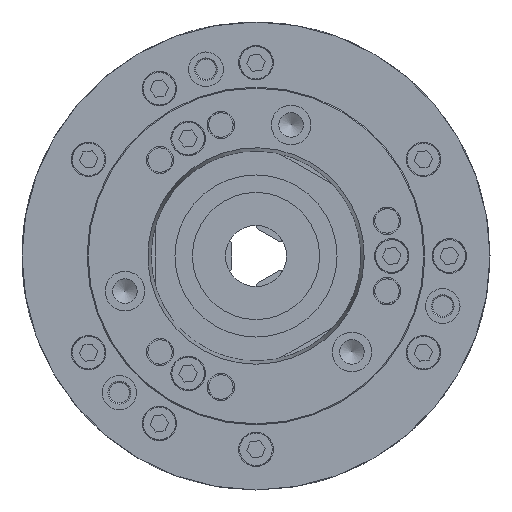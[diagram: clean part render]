
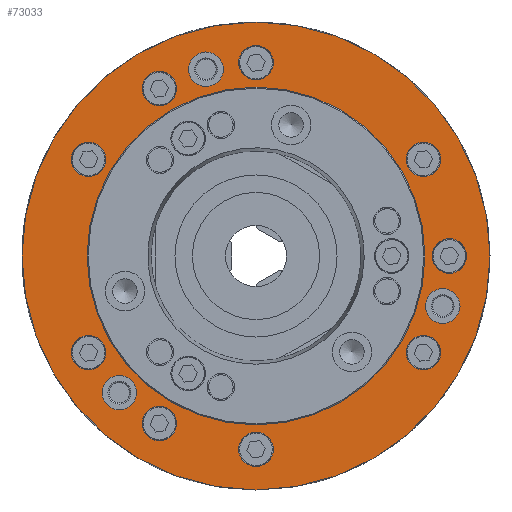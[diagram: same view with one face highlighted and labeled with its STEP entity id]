
A CAD part, left-side view. The second image highlights one B-rep face of the part: STEP entity #73033.
In plain terms, the highlighted planar face has unit normal (-1, 0, 0).
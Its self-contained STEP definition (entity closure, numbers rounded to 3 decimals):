
#86 = CARTESIAN_POINT ( 'NONE',  ( -109.5, -87.639, 4.25 ) ) ;
#146 = CIRCLE ( 'NONE', #57796, 8.5 ) ;
#2803 = CARTESIAN_POINT ( 'NONE',  ( -109.5, -82.272, -47.5 ) ) ;
#2932 = AXIS2_PLACEMENT_3D ( 'NONE', #21632, #38570, #27445 ) ;
#2992 = ORIENTED_EDGE ( 'NONE', *, *, #53183, .F. ) ;
#3221 = CIRCLE ( 'NONE', #47074, 8.5 ) ;
#3381 = EDGE_LOOP ( 'NONE', ( #65305 ) ) ;
#3659 = FACE_BOUND ( 'NONE', #66306, .T. ) ;
#3764 = EDGE_CURVE ( 'NONE', #32288, #32288, #34784, .T. ) ;
#3811 = DIRECTION ( 'NONE',  ( 0., 0.866, 0.5 ) ) ;
#4490 = CIRCLE ( 'NONE', #17836, 8.5 ) ;
#4620 = FACE_BOUND ( 'NONE', #20594, .T. ) ;
#4909 = CARTESIAN_POINT ( 'NONE',  ( -109.5, -91.763, -24.588 ) ) ;
#5010 = CARTESIAN_POINT ( 'NONE',  ( -109.5, 57.5, -99.593 ) ) ;
#5788 = VERTEX_POINT ( 'NONE', #70844 ) ;
#5940 = DIRECTION ( 'NONE',  ( -1., 0., 0. ) ) ;
#6651 = CARTESIAN_POINT ( 'NONE',  ( -109.5, 0., -115. ) ) ;
#7683 = VERTEX_POINT ( 'NONE', #86 ) ;
#8266 = FACE_BOUND ( 'NONE', #3381, .T. ) ;
#8632 = VERTEX_POINT ( 'NONE', #63203 ) ;
#8992 = AXIS2_PLACEMENT_3D ( 'NONE', #5010, #62558, #28367 ) ;
#10327 = DIRECTION ( 'NONE',  ( 0., 0., 1. ) ) ;
#10380 = VERTEX_POINT ( 'NONE', #36300 ) ;
#11283 = DIRECTION ( 'NONE',  ( 1., 0., 0. ) ) ;
#11336 = VERTEX_POINT ( 'NONE', #52787 ) ;
#11588 = EDGE_LOOP ( 'NONE', ( #54889 ) ) ;
#13091 = DIRECTION ( 'NONE',  ( 1., 0., 0. ) ) ;
#13256 = CARTESIAN_POINT ( 'NONE',  ( -109.5, -7.361, -90.75 ) ) ;
#13760 = CARTESIAN_POINT ( 'NONE',  ( -109.5, 0., -83. ) ) ;
#13956 = EDGE_LOOP ( 'NONE', ( #44639 ) ) ;
#14863 = DIRECTION ( 'NONE',  ( -1., 0., 0. ) ) ;
#15425 = CIRCLE ( 'NONE', #21208, 8.5 ) ;
#15595 = AXIS2_PLACEMENT_3D ( 'NONE', #74489, #22282, #10327 ) ;
#15636 = EDGE_CURVE ( 'NONE', #73107, #73107, #70246, .T. ) ;
#16084 = DIRECTION ( 'NONE',  ( 0., -0.866, -0.5 ) ) ;
#16410 = FACE_BOUND ( 'NONE', #57661, .T. ) ;
#16506 = DIRECTION ( 'NONE',  ( 0., 0., 1. ) ) ;
#17836 = AXIS2_PLACEMENT_3D ( 'NONE', #19700, #19943, #31105 ) ;
#17887 = DIRECTION ( 'NONE',  ( 0., -0.866, -0.5 ) ) ;
#18241 = EDGE_LOOP ( 'NONE', ( #48013 ) ) ;
#18266 = ORIENTED_EDGE ( 'NONE', *, *, #37514, .T. ) ;
#19336 = DIRECTION ( 'NONE',  ( -1., 0., 0. ) ) ;
#19424 = CIRCLE ( 'NONE', #2932, 8.5 ) ;
#19700 = CARTESIAN_POINT ( 'NONE',  ( -109.5, 0., -95. ) ) ;
#19943 = DIRECTION ( 'NONE',  ( 1., 0., 0. ) ) ;
#19947 = AXIS2_PLACEMENT_3D ( 'NONE', #35074, #11283, #23966 ) ;
#20594 = EDGE_LOOP ( 'NONE', ( #60337 ) ) ;
#21184 = EDGE_CURVE ( 'NONE', #8632, #8632, #47317, .T. ) ;
#21208 = AXIS2_PLACEMENT_3D ( 'NONE', #4909, #39843, #68045 ) ;
#21409 = VERTEX_POINT ( 'NONE', #45679 ) ;
#21632 = CARTESIAN_POINT ( 'NONE',  ( -109.5, 67.175, -67.175 ) ) ;
#21788 = EDGE_CURVE ( 'NONE', #21409, #21409, #146, .T. ) ;
#22282 = DIRECTION ( 'NONE',  ( -1., 0., 0. ) ) ;
#23430 = CARTESIAN_POINT ( 'NONE',  ( -109.5, -91.763, -16.088 ) ) ;
#23713 = FACE_OUTER_BOUND ( 'NONE', #13956, .T. ) ;
#23966 = DIRECTION ( 'NONE',  ( 0., 0., -1. ) ) ;
#27445 = DIRECTION ( 'NONE',  ( 0., 0., 1. ) ) ;
#27645 = CIRCLE ( 'NONE', #19947, 115. ) ;
#27956 = CIRCLE ( 'NONE', #55069, 83. ) ;
#28367 = DIRECTION ( 'NONE',  ( 0., 0., 1. ) ) ;
#30251 = CARTESIAN_POINT ( 'NONE',  ( -109.5, 24.588, 100.263 ) ) ;
#31105 = DIRECTION ( 'NONE',  ( 0., -0.866, 0.5 ) ) ;
#31287 = VERTEX_POINT ( 'NONE', #6651 ) ;
#31491 = AXIS2_PLACEMENT_3D ( 'NONE', #43084, #45608, #16506 ) ;
#31862 = FACE_BOUND ( 'NONE', #62929, .T. ) ;
#32288 = VERTEX_POINT ( 'NONE', #61958 ) ;
#33017 = VERTEX_POINT ( 'NONE', #13760 ) ;
#33432 = PLANE ( 'NONE',  #8992 ) ;
#34346 = AXIS2_PLACEMENT_3D ( 'NONE', #2803, #19336, #48680 ) ;
#34784 = CIRCLE ( 'NONE', #56380, 8.5 ) ;
#35074 = CARTESIAN_POINT ( 'NONE',  ( -109.5, 0., 0. ) ) ;
#36300 = CARTESIAN_POINT ( 'NONE',  ( -109.5, 47.5, -73.772 ) ) ;
#36881 = CARTESIAN_POINT ( 'NONE',  ( -109.5, 82.272, 47.5 ) ) ;
#37514 = EDGE_CURVE ( 'NONE', #7683, #7683, #3221, .T. ) ;
#37895 = EDGE_LOOP ( 'NONE', ( #68230 ) ) ;
#38155 = FACE_BOUND ( 'NONE', #48468, .T. ) ;
#38570 = DIRECTION ( 'NONE',  ( -1., 0., 0. ) ) ;
#39382 = DIRECTION ( 'NONE',  ( -1., 0., 0. ) ) ;
#39843 = DIRECTION ( 'NONE',  ( -1., 0., 0. ) ) ;
#40282 = DIRECTION ( 'NONE',  ( 1., 0., 0. ) ) ;
#40654 = CARTESIAN_POINT ( 'NONE',  ( -109.5, 0., 95. ) ) ;
#42279 = EDGE_CURVE ( 'NONE', #54785, #54785, #15425, .T. ) ;
#42391 = ORIENTED_EDGE ( 'NONE', *, *, #15636, .T. ) ;
#43036 = EDGE_LOOP ( 'NONE', ( #2992 ) ) ;
#43084 = CARTESIAN_POINT ( 'NONE',  ( -109.5, 24.588, 91.763 ) ) ;
#44639 = ORIENTED_EDGE ( 'NONE', *, *, #46378, .F. ) ;
#45112 = CARTESIAN_POINT ( 'NONE',  ( -109.5, -82.272, 47.5 ) ) ;
#45345 = DIRECTION ( 'NONE',  ( 1., 0., 0. ) ) ;
#45608 = DIRECTION ( 'NONE',  ( -1., 0., 0. ) ) ;
#45679 = CARTESIAN_POINT ( 'NONE',  ( -109.5, -74.911, 51.75 ) ) ;
#46254 = FACE_BOUND ( 'NONE', #43036, .T. ) ;
#46303 = EDGE_LOOP ( 'NONE', ( #18266 ) ) ;
#46378 = EDGE_CURVE ( 'NONE', #31287, #31287, #27645, .T. ) ;
#46818 = EDGE_CURVE ( 'NONE', #11336, #11336, #19424, .T. ) ;
#47074 = AXIS2_PLACEMENT_3D ( 'NONE', #67477, #55999, #3811 ) ;
#47213 = FACE_BOUND ( 'NONE', #37895, .T. ) ;
#47317 = CIRCLE ( 'NONE', #75274, 8.5 ) ;
#47448 = CARTESIAN_POINT ( 'NONE',  ( -109.5, -74.911, -51.75 ) ) ;
#48013 = ORIENTED_EDGE ( 'NONE', *, *, #46818, .F. ) ;
#48028 = DIRECTION ( 'NONE',  ( 0., 0., -1. ) ) ;
#48409 = AXIS2_PLACEMENT_3D ( 'NONE', #66604, #14863, #72950 ) ;
#48468 = EDGE_LOOP ( 'NONE', ( #54406 ) ) ;
#48553 = ORIENTED_EDGE ( 'NONE', *, *, #21184, .F. ) ;
#48680 = DIRECTION ( 'NONE',  ( 0., 0.866, -0.5 ) ) ;
#49044 = FACE_BOUND ( 'NONE', #18241, .T. ) ;
#49920 = FACE_BOUND ( 'NONE', #71746, .T. ) ;
#50158 = CIRCLE ( 'NONE', #34346, 8.5 ) ;
#50796 = CARTESIAN_POINT ( 'NONE',  ( -109.5, 47.5, 82.272 ) ) ;
#52109 = VERTEX_POINT ( 'NONE', #30251 ) ;
#52193 = DIRECTION ( 'NONE',  ( 0., 0., -1. ) ) ;
#52692 = FACE_BOUND ( 'NONE', #11588, .T. ) ;
#52787 = CARTESIAN_POINT ( 'NONE',  ( -109.5, 67.175, -58.675 ) ) ;
#53168 = EDGE_CURVE ( 'NONE', #56600, #56600, #50158, .T. ) ;
#53183 = EDGE_CURVE ( 'NONE', #52109, #52109, #68341, .T. ) ;
#54406 = ORIENTED_EDGE ( 'NONE', *, *, #64848, .F. ) ;
#54785 = VERTEX_POINT ( 'NONE', #23430 ) ;
#54889 = ORIENTED_EDGE ( 'NONE', *, *, #21788, .T. ) ;
#55069 = AXIS2_PLACEMENT_3D ( 'NONE', #57274, #40282, #52193 ) ;
#55811 = EDGE_CURVE ( 'NONE', #10380, #10380, #68267, .T. ) ;
#55999 = DIRECTION ( 'NONE',  ( 1., 0., 0. ) ) ;
#56380 = AXIS2_PLACEMENT_3D ( 'NONE', #40654, #5940, #17887 ) ;
#56600 = VERTEX_POINT ( 'NONE', #47448 ) ;
#57274 = CARTESIAN_POINT ( 'NONE',  ( -109.5, 0., 0. ) ) ;
#57661 = EDGE_LOOP ( 'NONE', ( #42391 ) ) ;
#57796 = AXIS2_PLACEMENT_3D ( 'NONE', #45112, #45345, #69265 ) ;
#60337 = ORIENTED_EDGE ( 'NONE', *, *, #42279, .F. ) ;
#60880 = ORIENTED_EDGE ( 'NONE', *, *, #62880, .T. ) ;
#61958 = CARTESIAN_POINT ( 'NONE',  ( -109.5, -7.361, 90.75 ) ) ;
#62001 = EDGE_CURVE ( 'NONE', #62966, #62966, #4490, .T. ) ;
#62558 = DIRECTION ( 'NONE',  ( -1., 0., 0. ) ) ;
#62880 = EDGE_CURVE ( 'NONE', #33017, #33017, #27956, .T. ) ;
#62929 = EDGE_LOOP ( 'NONE', ( #48553 ) ) ;
#62966 = VERTEX_POINT ( 'NONE', #13256 ) ;
#63203 = CARTESIAN_POINT ( 'NONE',  ( -109.5, 40.139, 78.022 ) ) ;
#64848 = EDGE_CURVE ( 'NONE', #5788, #5788, #65705, .T. ) ;
#65220 = ORIENTED_EDGE ( 'NONE', *, *, #55811, .F. ) ;
#65305 = ORIENTED_EDGE ( 'NONE', *, *, #53168, .F. ) ;
#65705 = CIRCLE ( 'NONE', #48409, 8.5 ) ;
#66306 = EDGE_LOOP ( 'NONE', ( #60880 ) ) ;
#66604 = CARTESIAN_POINT ( 'NONE',  ( -109.5, 82.272, -47.5 ) ) ;
#67477 = CARTESIAN_POINT ( 'NONE',  ( -109.5, -95., 0. ) ) ;
#68045 = DIRECTION ( 'NONE',  ( 0., 0., 1. ) ) ;
#68160 = FACE_BOUND ( 'NONE', #46303, .T. ) ;
#68196 = AXIS2_PLACEMENT_3D ( 'NONE', #36881, #13091, #48028 ) ;
#68230 = ORIENTED_EDGE ( 'NONE', *, *, #3764, .F. ) ;
#68267 = CIRCLE ( 'NONE', #15595, 8.5 ) ;
#68329 = CARTESIAN_POINT ( 'NONE',  ( -109.5, 82.272, 39. ) ) ;
#68341 = CIRCLE ( 'NONE', #31491, 8.5 ) ;
#69265 = DIRECTION ( 'NONE',  ( 0., 0.866, 0.5 ) ) ;
#69956 = ORIENTED_EDGE ( 'NONE', *, *, #62001, .T. ) ;
#70246 = CIRCLE ( 'NONE', #68196, 8.5 ) ;
#70844 = CARTESIAN_POINT ( 'NONE',  ( -109.5, 82.272, -39. ) ) ;
#71746 = EDGE_LOOP ( 'NONE', ( #65220 ) ) ;
#72950 = DIRECTION ( 'NONE',  ( 0., 0., 1. ) ) ;
#73033 = ADVANCED_FACE ( 'NONE', ( #46254, #4620, #49044, #3659, #23713, #38155, #49920, #74490, #8266, #68160, #52692, #47213, #31862, #16410 ), #33432, .T. ) ;
#73107 = VERTEX_POINT ( 'NONE', #68329 ) ;
#74489 = CARTESIAN_POINT ( 'NONE',  ( -109.5, 47.5, -82.272 ) ) ;
#74490 = FACE_BOUND ( 'NONE', #75043, .T. ) ;
#75043 = EDGE_LOOP ( 'NONE', ( #69956 ) ) ;
#75274 = AXIS2_PLACEMENT_3D ( 'NONE', #50796, #39382, #16084 ) ;
